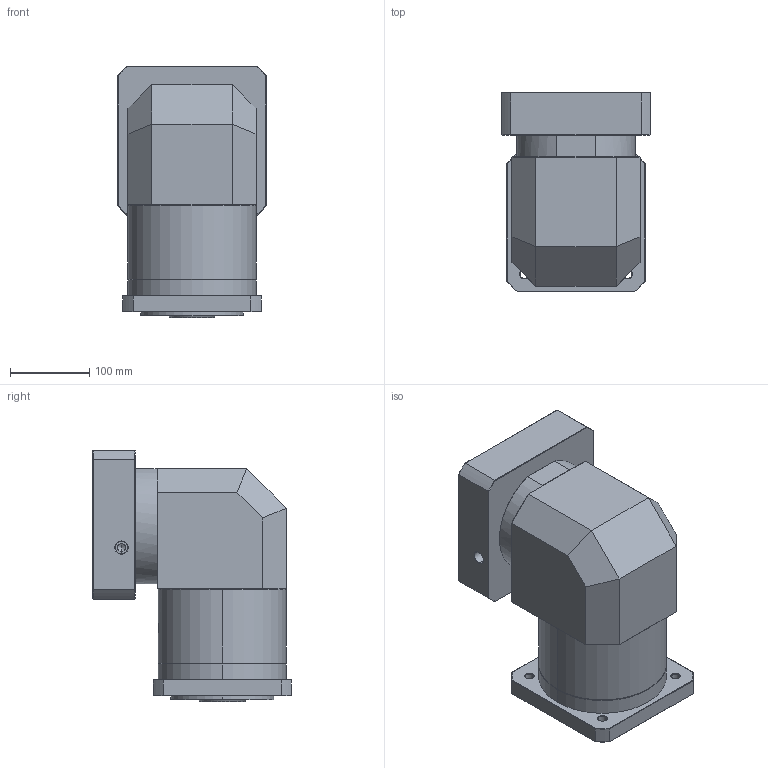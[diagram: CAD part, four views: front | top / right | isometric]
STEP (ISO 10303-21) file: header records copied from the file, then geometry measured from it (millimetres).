
FILE_DESCRIPTION (( 'STEP AP214' ), '1' );
FILE_NAME ('ZFR160A-K35-L2-P2-38-180-215-M12.step', '2023-09-03T09:02:47', ( '' ), ( '' ), 'SwSTEP 2.0', 'SolidWorks 2016', '' );
FILE_SCHEMA (( 'AUTOMOTIVE_DESIGN' ));
Length unit declared in the file: millimetre
Products named in the file (1): ZFR160A-K35-L2-P2-38-180-215-M12
Bounding box: 188 x 251.5 x 317.7 mm (x, y, z)
Volume: 7922045.5 mm3; surface area: 495351.5 mm2
Topology: 6 solids, 6 shells, 2130 faces, 5620 edges, 3597 vertices
Faces by surface type: plane 1039, bspline 403, cylinder 367, cone 301, torus 20
Entity records: 117956 total; most frequent: CARTESIAN_POINT 46940, ORIENTED_EDGE 11184, DIRECTION 8108, EDGE_CURVE 5592, VERTEX_POINT 3597, VECTOR 3024, LINE 3024, AXIS2_PLACEMENT_3D 2542
